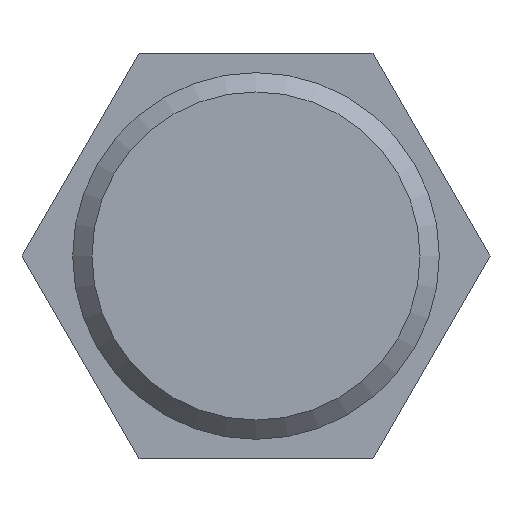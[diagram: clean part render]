
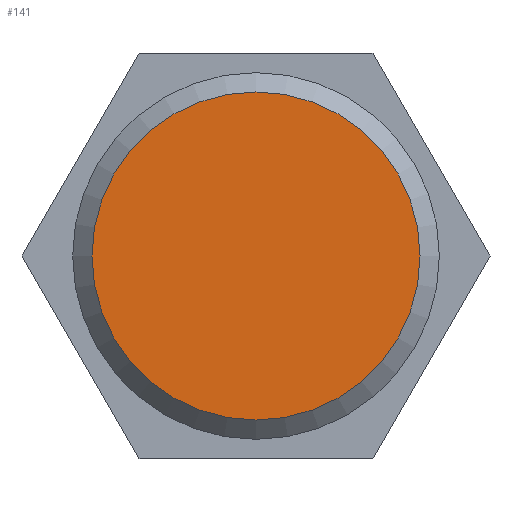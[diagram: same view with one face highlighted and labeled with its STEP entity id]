
A CAD part, left-side view. The second image highlights one B-rep face of the part: STEP entity #141.
In plain terms, the highlighted planar face has unit normal (-1, 0, 0).
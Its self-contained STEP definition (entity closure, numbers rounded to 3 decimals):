
#110=CARTESIAN_POINT('',(0.,8.5,0.));
#111=VERTEX_POINT('',#110);
#112=CARTESIAN_POINT('',(0.,0.0,0.0));
#113=DIRECTION('',(1.0,0.0,0.0));
#114=DIRECTION('',(0.0,-1.0,0.0));
#115=AXIS2_PLACEMENT_3D('',#112,#113,#114);
#116=CIRCLE('',#115,8.5);
#117=EDGE_CURVE('',#111,#111,#116,.T.);
#133=CARTESIAN_POINT('',(0.,4.75,0.0));
#134=DIRECTION('',(-1.0,0.0,0.0));
#135=DIRECTION('',(0.0,0.0,1.0));
#136=AXIS2_PLACEMENT_3D('',#133,#134,#135);
#137=PLANE('',#136);
#138=ORIENTED_EDGE('',*,*,#117,.F.);
#139=EDGE_LOOP('',(#138));
#140=FACE_OUTER_BOUND('',#139,.T.);
#141=ADVANCED_FACE('',(#140),#137,.T.);
